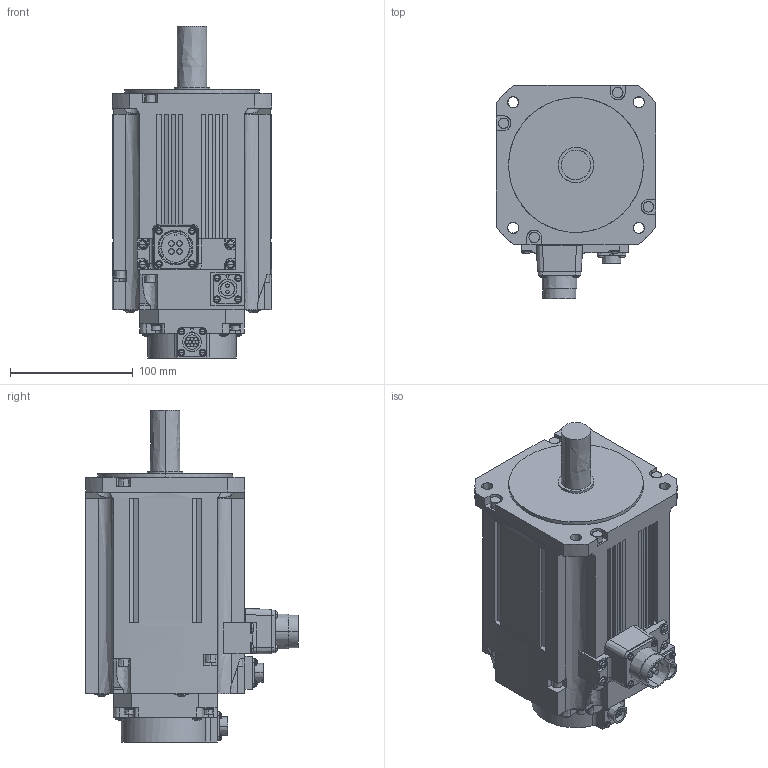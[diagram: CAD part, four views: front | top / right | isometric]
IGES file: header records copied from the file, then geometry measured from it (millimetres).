
Start section:  PTC IGES file: hk-st302wb_.igs
Global section: file name: hk-st302wb_.igs; native system: Creo Parametric by PTC Inc.; preprocessor: 2016380; author: XE90682; organization: Unknown; date: 20190118.091642; units: millimetre
Bounding box: 130 x 173.8 x 271 mm (x, y, z)
Volume: 2924896.8 mm3; surface area: 165053 mm2
Topology: 1 solids, 1 shells, 624 faces, 1534 edges, 968 vertices
Faces by surface type: bspline 624
